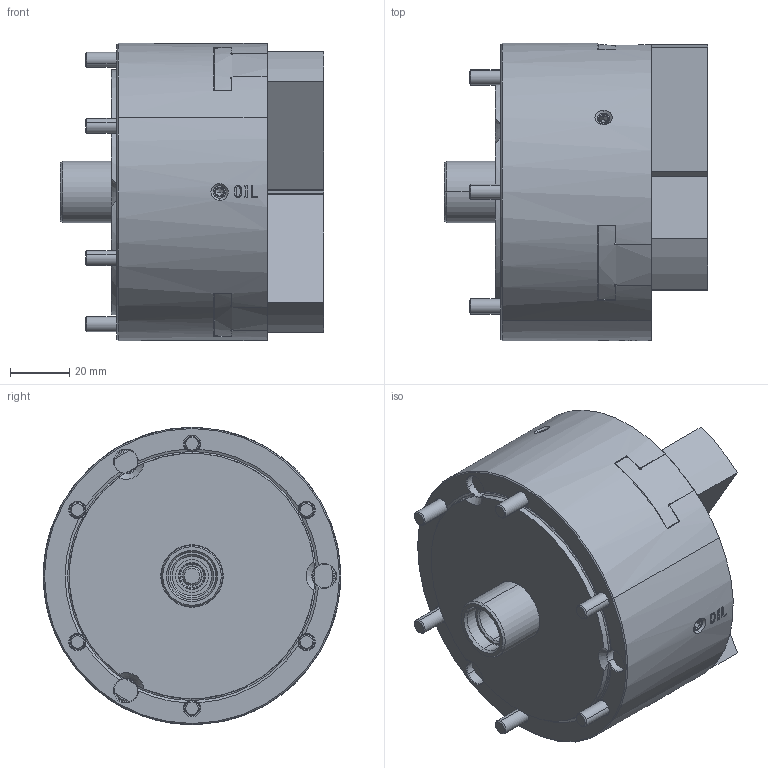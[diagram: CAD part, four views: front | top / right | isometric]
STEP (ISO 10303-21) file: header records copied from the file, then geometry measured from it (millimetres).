
FILE_DESCRIPTION (( 'STEP AP214' ), '1' );
FILE_NAME ('DEV-KPC43C048-OUTSIDE_VIEW_HCL.STEP', '2023-12-21T05:12:39', ( '' ), ( '' ), 'SwSTEP 2.0', 'SolidWorks 2022', '' );
FILE_SCHEMA (( 'AUTOMOTIVE_DESIGN' ));
Length unit declared in the file: millimetre
Products named in the file (7): Copy of 0030105016^DEV-KPC43C048-クミタテ; Part14^DEV-KPC43C048-クミタテ; DEV-KPC43C048-OUTSIDE_VIEW_HCL; Copy of 61P306265^DEV-KPC43C048-クミタテ; Copy of 0284210012^DEV-KPC43C048-クミタテ; Copy of 0030105055^DEV-KPC43C048-クミタテ; Copy of 61P418231^DEV-KPC43C048-クミタテ
Assembly tree (26 placements, depth 2):
  DEV-KPC43C048-OUTSIDE_VIEW_HCL
    Copy of 61P306265^DEV-KPC43C048-クミタテ  x3
    Copy of 61P418231^DEV-KPC43C048-クミタテ
    Copy of 0030105055^DEV-KPC43C048-クミタテ  x6
    Copy of 0030105016^DEV-KPC43C048-クミタテ  x6
    Copy of 0284210012^DEV-KPC43C048-クミタテ  x9
    Part14^DEV-KPC43C048-クミタテ
Bounding box: 88.55 x 100 x 100 mm (x, y, z)
Volume: 449439.1 mm3; surface area: 76305.1 mm2
Topology: 28 solids, 31 shells, 1789 faces, 4466 edges, 2816 vertices
Faces by surface type: plane 784, cone 431, cylinder 362, bspline 180, torus 32
Entity records: 50589 total; most frequent: CARTESIAN_POINT 16464, ORIENTED_EDGE 7264, DIRECTION 6427, EDGE_CURVE 3632, VERTEX_POINT 2328, AXIS2_PLACEMENT_3D 2163, VECTOR 2101, LINE 2101
